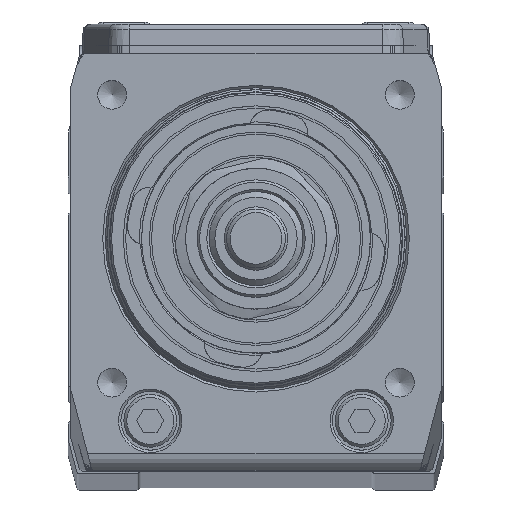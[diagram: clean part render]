
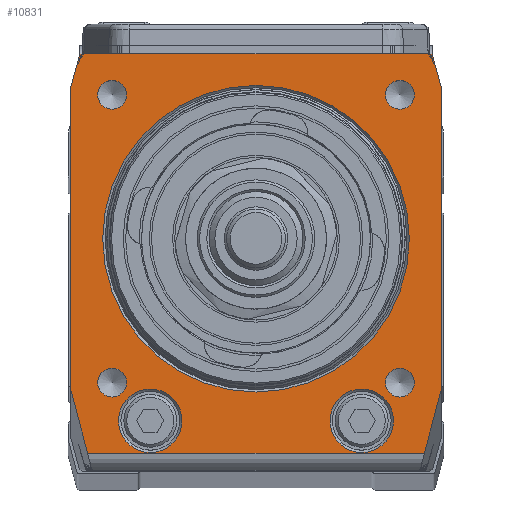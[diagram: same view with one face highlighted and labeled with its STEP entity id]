
A CAD part, top view. The second image highlights one B-rep face of the part: STEP entity #10831.
In plain terms, the highlighted planar face has unit normal (0, 0, 1) as drawn and (-1, 0, 0) by its records, which use the part's own axes.
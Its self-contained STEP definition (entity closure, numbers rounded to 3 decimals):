
#887=CIRCLE('',#15864,0.3);
#888=CIRCLE('',#15865,0.3);
#890=CIRCLE('',#15869,2.7);
#891=CIRCLE('',#15870,2.7);
#892=CIRCLE('',#15871,1.23);
#893=CIRCLE('',#15872,1.23);
#894=CIRCLE('',#15873,1.23);
#895=CIRCLE('',#15874,1.23);
#896=CIRCLE('',#15875,13.05);
#3479=ORIENTED_EDGE('',*,*,#5280,.T.);
#3480=ORIENTED_EDGE('',*,*,#5281,.T.);
#3481=ORIENTED_EDGE('',*,*,#5282,.T.);
#3482=ORIENTED_EDGE('',*,*,#5283,.T.);
#3483=ORIENTED_EDGE('',*,*,#5284,.T.);
#3484=ORIENTED_EDGE('',*,*,#5285,.T.);
#3485=ORIENTED_EDGE('',*,*,#5286,.T.);
#3486=ORIENTED_EDGE('',*,*,#5287,.F.);
#3487=ORIENTED_EDGE('',*,*,#5260,.F.);
#3488=ORIENTED_EDGE('',*,*,#5190,.F.);
#3489=ORIENTED_EDGE('',*,*,#5275,.F.);
#3490=ORIENTED_EDGE('',*,*,#5274,.F.);
#3491=ORIENTED_EDGE('',*,*,#5273,.F.);
#3492=ORIENTED_EDGE('',*,*,#5272,.F.);
#3493=ORIENTED_EDGE('',*,*,#5271,.F.);
#3494=ORIENTED_EDGE('',*,*,#5279,.F.);
#3495=ORIENTED_EDGE('',*,*,#5264,.F.);
#5190=EDGE_CURVE('',#6345,#6346,#7291,.T.);
#5260=EDGE_CURVE('',#6346,#6398,#7314,.T.);
#5264=EDGE_CURVE('',#6401,#6402,#7316,.T.);
#5271=EDGE_CURVE('',#6407,#6408,#7319,.T.);
#5272=EDGE_CURVE('',#6408,#6409,#887,.T.);
#5273=EDGE_CURVE('',#6409,#6410,#7320,.T.);
#5274=EDGE_CURVE('',#6410,#6411,#888,.T.);
#5275=EDGE_CURVE('',#6411,#6345,#7321,.T.);
#5279=EDGE_CURVE('',#6402,#6407,#7324,.T.);
#5280=EDGE_CURVE('',#6414,#6414,#890,.T.);
#5281=EDGE_CURVE('',#6415,#6415,#891,.T.);
#5282=EDGE_CURVE('',#6416,#6416,#892,.T.);
#5283=EDGE_CURVE('',#6417,#6417,#893,.T.);
#5284=EDGE_CURVE('',#6418,#6418,#894,.T.);
#5285=EDGE_CURVE('',#6419,#6419,#895,.T.);
#5286=EDGE_CURVE('',#6420,#6420,#896,.T.);
#5287=EDGE_CURVE('',#6398,#6401,#7325,.T.);
#6345=VERTEX_POINT('',#22552);
#6346=VERTEX_POINT('',#22554);
#6398=VERTEX_POINT('',#22773);
#6401=VERTEX_POINT('',#22789);
#6402=VERTEX_POINT('',#22791);
#6407=VERTEX_POINT('',#22826);
#6408=VERTEX_POINT('',#22828);
#6409=VERTEX_POINT('',#22830);
#6410=VERTEX_POINT('',#22832);
#6411=VERTEX_POINT('',#22834);
#6414=VERTEX_POINT('',#22845);
#6415=VERTEX_POINT('',#22847);
#6416=VERTEX_POINT('',#22849);
#6417=VERTEX_POINT('',#22851);
#6418=VERTEX_POINT('',#22853);
#6419=VERTEX_POINT('',#22855);
#6420=VERTEX_POINT('',#22857);
#7291=LINE('',#22553,#8161);
#7314=LINE('',#22772,#8184);
#7316=LINE('',#22790,#8186);
#7319=LINE('',#22827,#8189);
#7320=LINE('',#22831,#8190);
#7321=LINE('',#22835,#8191);
#7324=LINE('',#22842,#8194);
#7325=LINE('',#22858,#8195);
#8161=VECTOR('',#18574,1000.);
#8184=VECTOR('',#18677,1000.);
#8186=VECTOR('',#18679,1000.);
#8189=VECTOR('',#18690,1000.);
#8190=VECTOR('',#18693,1000.);
#8191=VECTOR('',#18696,1000.);
#8194=VECTOR('',#18703,1000.);
#8195=VECTOR('',#18720,1000.);
#8946=EDGE_LOOP('',(#3479));
#8947=EDGE_LOOP('',(#3480));
#8948=EDGE_LOOP('',(#3481));
#8949=EDGE_LOOP('',(#3482));
#8950=EDGE_LOOP('',(#3483));
#8951=EDGE_LOOP('',(#3484));
#8952=EDGE_LOOP('',(#3485));
#8953=EDGE_LOOP('',(#3486,#3487,#3488,#3489,#3490,#3491,#3492,#3493,#3494,
#3495));
#9810=FACE_BOUND('',#8946,.T.);
#9811=FACE_BOUND('',#8947,.T.);
#9812=FACE_BOUND('',#8948,.T.);
#9813=FACE_BOUND('',#8949,.T.);
#9814=FACE_BOUND('',#8950,.T.);
#9815=FACE_BOUND('',#8951,.T.);
#9816=FACE_BOUND('',#8952,.T.);
#9817=FACE_BOUND('',#8953,.T.);
#10269=PLANE('',#15868);
#10831=ADVANCED_FACE('',(#9810,#9811,#9812,#9813,#9814,#9815,#9816,#9817),
#10269,.F.);
#15864=AXIS2_PLACEMENT_3D('',#22829,#18691,#18692);
#15865=AXIS2_PLACEMENT_3D('',#22833,#18694,#18695);
#15868=AXIS2_PLACEMENT_3D('',#22843,#18704,#18705);
#15869=AXIS2_PLACEMENT_3D('',#22844,#18706,#18707);
#15870=AXIS2_PLACEMENT_3D('',#22846,#18708,#18709);
#15871=AXIS2_PLACEMENT_3D('',#22848,#18710,#18711);
#15872=AXIS2_PLACEMENT_3D('',#22850,#18712,#18713);
#15873=AXIS2_PLACEMENT_3D('',#22852,#18714,#18715);
#15874=AXIS2_PLACEMENT_3D('',#22854,#18716,#18717);
#15875=AXIS2_PLACEMENT_3D('',#22856,#18718,#18719);
#18574=DIRECTION('',(0.,-1.,0.));
#18677=DIRECTION('',(0.,-0.966,-0.259));
#18679=DIRECTION('',(0.,0.966,-0.259));
#18690=DIRECTION('',(0.,0.966,0.259));
#18691=DIRECTION('',(1.,0.,0.));
#18692=DIRECTION('',(0.,0.,-1.));
#18693=DIRECTION('',(0.,0.,1.));
#18694=DIRECTION('',(1.,0.,0.));
#18695=DIRECTION('',(0.,0.,-1.));
#18696=DIRECTION('',(0.,-0.966,0.259));
#18703=DIRECTION('',(0.,1.,0.));
#18704=DIRECTION('',(1.,0.,0.));
#18705=DIRECTION('',(0.,0.,-1.));
#18706=DIRECTION('',(1.,0.,0.));
#18707=DIRECTION('',(0.,0.,-1.));
#18708=DIRECTION('',(1.,0.,0.));
#18709=DIRECTION('',(0.,0.,-1.));
#18710=DIRECTION('',(1.,0.,0.));
#18711=DIRECTION('',(0.,0.,-1.));
#18712=DIRECTION('',(1.,0.,0.));
#18713=DIRECTION('',(0.,0.,-1.));
#18714=DIRECTION('',(1.,0.,0.));
#18715=DIRECTION('',(0.,0.,-1.));
#18716=DIRECTION('',(1.,0.,0.));
#18717=DIRECTION('',(0.,0.,-1.));
#18718=DIRECTION('',(1.,0.,0.));
#18719=DIRECTION('',(0.,0.,-1.));
#18720=DIRECTION('',(0.,0.,-1.));
#22552=CARTESIAN_POINT('',(0.,12.92,15.75));
#22553=CARTESIAN_POINT('',(0.,12.92,15.75));
#22554=CARTESIAN_POINT('',(0.,-12.95,15.75));
#22772=CARTESIAN_POINT('',(0.,-12.95,15.75));
#22773=CARTESIAN_POINT('',(0.,-18.25,14.33));
#22789=CARTESIAN_POINT('',(0.,-18.25,-14.33));
#22790=CARTESIAN_POINT('',(0.,-19.528,-13.988));
#22791=CARTESIAN_POINT('',(0.,-12.95,-15.75));
#22826=CARTESIAN_POINT('',(0.,12.92,-15.75));
#22827=CARTESIAN_POINT('',(0.,12.92,-15.75));
#22828=CARTESIAN_POINT('',(0.,15.528,-15.051));
#22829=CARTESIAN_POINT('',(0.,15.45,-14.762));
#22830=CARTESIAN_POINT('',(0.,15.75,-14.762));
#22831=CARTESIAN_POINT('',(0.,15.75,-14.762));
#22832=CARTESIAN_POINT('',(0.,15.75,14.762));
#22833=CARTESIAN_POINT('',(0.,15.45,14.762));
#22834=CARTESIAN_POINT('',(0.,15.528,15.051));
#22835=CARTESIAN_POINT('',(0.,15.528,15.051));
#22842=CARTESIAN_POINT('',(0.,-12.95,-15.75));
#22843=CARTESIAN_POINT('',(0.,-19.45,13.698));
#22844=CARTESIAN_POINT('',(0.,-15.5,-9.));
#22845=CARTESIAN_POINT('',(0.,-15.5,-11.7));
#22846=CARTESIAN_POINT('',(0.,-15.5,9.));
#22847=CARTESIAN_POINT('',(0.,-15.5,6.3));
#22848=CARTESIAN_POINT('',(0.,-12.25,-12.25));
#22849=CARTESIAN_POINT('',(0.,-12.25,-13.48));
#22850=CARTESIAN_POINT('',(0.,12.25,-12.25));
#22851=CARTESIAN_POINT('',(0.,12.25,-13.48));
#22852=CARTESIAN_POINT('',(0.,12.25,12.25));
#22853=CARTESIAN_POINT('',(0.,12.25,11.021));
#22854=CARTESIAN_POINT('',(0.,-12.25,12.25));
#22855=CARTESIAN_POINT('',(0.,-12.25,11.021));
#22856=CARTESIAN_POINT('',(0.,0.,0.));
#22857=CARTESIAN_POINT('',(0.,0.,-13.05));
#22858=CARTESIAN_POINT('',(0.,-18.25,15.75));
